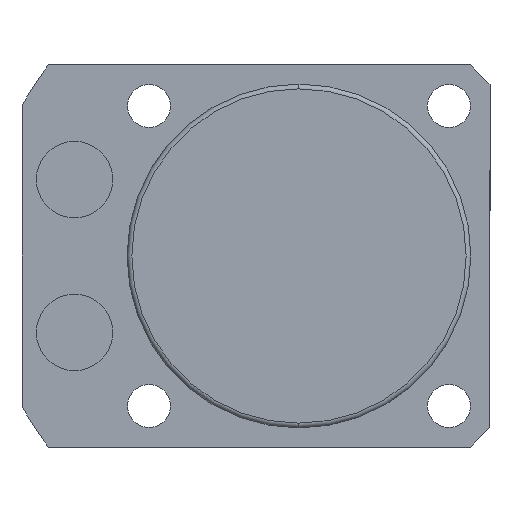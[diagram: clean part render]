
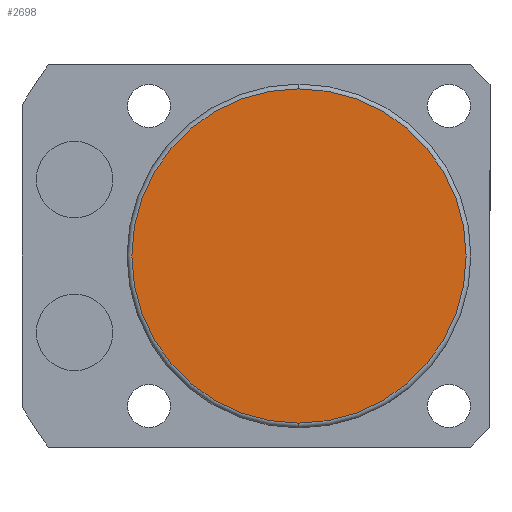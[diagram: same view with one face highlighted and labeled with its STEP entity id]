
A CAD part, front view. The second image highlights one B-rep face of the part: STEP entity #2698.
In plain terms, the highlighted planar face has unit normal (0, -1, 0).
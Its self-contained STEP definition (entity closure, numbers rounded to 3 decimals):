
#7 = CARTESIAN_POINT ( 'NONE',  ( 0., -35.5, 0. ) ) ;
#69 = CARTESIAN_POINT ( 'NONE',  ( 0., -35.5, 17.5 ) ) ;
#684 = AXIS2_PLACEMENT_3D ( 'NONE', #7, #5091, #1950 ) ;
#866 = CIRCLE ( 'NONE', #3385, 17.5 ) ;
#869 = CIRCLE ( 'NONE', #1663, 17.5 ) ;
#1126 = DIRECTION ( 'NONE',  ( 0., -1., 0. ) ) ;
#1147 = DIRECTION ( 'NONE',  ( 0., 0., -1. ) ) ;
#1165 = VERTEX_POINT ( 'NONE', #2906 ) ;
#1321 = ORIENTED_EDGE ( 'NONE', *, *, #4688, .T. ) ;
#1581 = DIRECTION ( 'NONE',  ( 0., -1., 0. ) ) ;
#1591 = DIRECTION ( 'NONE',  ( 0., 0., -1. ) ) ;
#1604 = CARTESIAN_POINT ( 'NONE',  ( 0., -35.5, 0. ) ) ;
#1663 = AXIS2_PLACEMENT_3D ( 'NONE', #3061, #1126, #1147 ) ;
#1712 = FACE_OUTER_BOUND ( 'NONE', #3650, .T. ) ;
#1950 = DIRECTION ( 'NONE',  ( 0., 0., -1. ) ) ;
#1986 = VERTEX_POINT ( 'NONE', #69 ) ;
#2698 = ADVANCED_FACE ( 'NONE', ( #1712 ), #3426, .T. ) ;
#2906 = CARTESIAN_POINT ( 'NONE',  ( 0., -35.5, -17.5 ) ) ;
#3061 = CARTESIAN_POINT ( 'NONE',  ( 0., -35.5, 0. ) ) ;
#3161 = EDGE_CURVE ( 'NONE', #1165, #1986, #866, .T. ) ;
#3385 = AXIS2_PLACEMENT_3D ( 'NONE', #1604, #1581, #1591 ) ;
#3426 = PLANE ( 'NONE',  #684 ) ;
#3650 = EDGE_LOOP ( 'NONE', ( #3940, #1321 ) ) ;
#3940 = ORIENTED_EDGE ( 'NONE', *, *, #3161, .T. ) ;
#4688 = EDGE_CURVE ( 'NONE', #1986, #1165, #869, .T. ) ;
#5091 = DIRECTION ( 'NONE',  ( 0., -1., 0. ) ) ;
